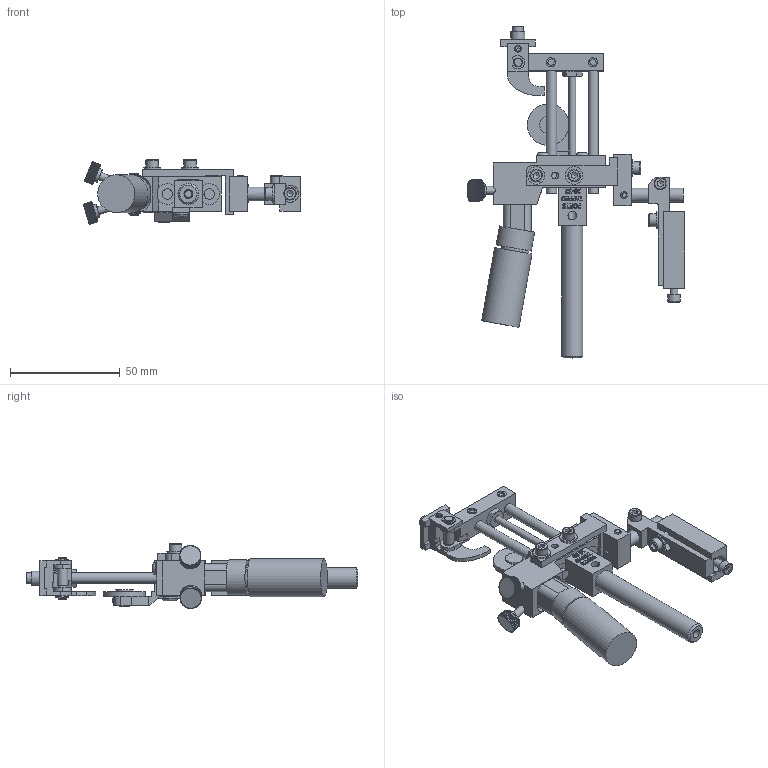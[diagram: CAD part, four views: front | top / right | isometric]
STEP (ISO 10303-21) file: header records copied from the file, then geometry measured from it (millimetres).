
FILE_DESCRIPTION((''),'2;1');
FILE_NAME('C:\Documents and Settings\Ron\My Documents\Inventor\Sprinter Drawing\Machines in Inventor\Model 22\Dot\3-sixth\Std\Brkt\Ext\Model 22 STD 3-16 dot ext w brkt.stp','2009-01-14T08:45:01',('Ron'),(''),'Autodesk Inventor 2008','Autodesk Inventor 2008','');
FILE_SCHEMA(('AUTOMOTIVE_DESIGN { 1 0 10303 214 1 1 1 1 }'));
Length unit declared in the file: inch
Products named in the file (1): Model 22 STD 3-16 dot ext w brkt
Bounding box: 99.17 x 151.31 x 29.56 mm (x, y, z)
Volume: 56774.3 mm3; surface area: 34029.6 mm2
Topology: 34 solids, 34 shells, 4737 faces, 13124 edges, 8710 vertices
Faces by surface type: plane 2893, bspline 1291, cylinder 484, cone 56, torus 13
Full cylindrical faces by diameter (mm): 2.845 x3, 2.946 x2, 3.175 x3, 3.505 x7, 3.556 x2, 3.658 x2, 3.876 x1, 3.962 x9, 4.064 x1, 4.166 x3, 4.648 x2, 4.699 x1, 4.75 x1, 4.763 x2, 4.775 x3, 4.788 x1, 5.41 x2, 5.74 x6, 6.096 x1, 6.325 x2, 6.35 x4, 6.477 x1, 6.655 x1, 7.925 x4, 7.938 x1, 8.128 x1, 9.462 x1, 9.525 x1, 10.922 x1, 11.938 x1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
Entity records: 165641 total; most frequent: CARTESIAN_POINT 49254, ORIENTED_EDGE 25676, DIRECTION 18355, EDGE_CURVE 12838, VECTOR 9055, LINE 9055, VERTEX_POINT 8604, EDGE_LOOP 5254
